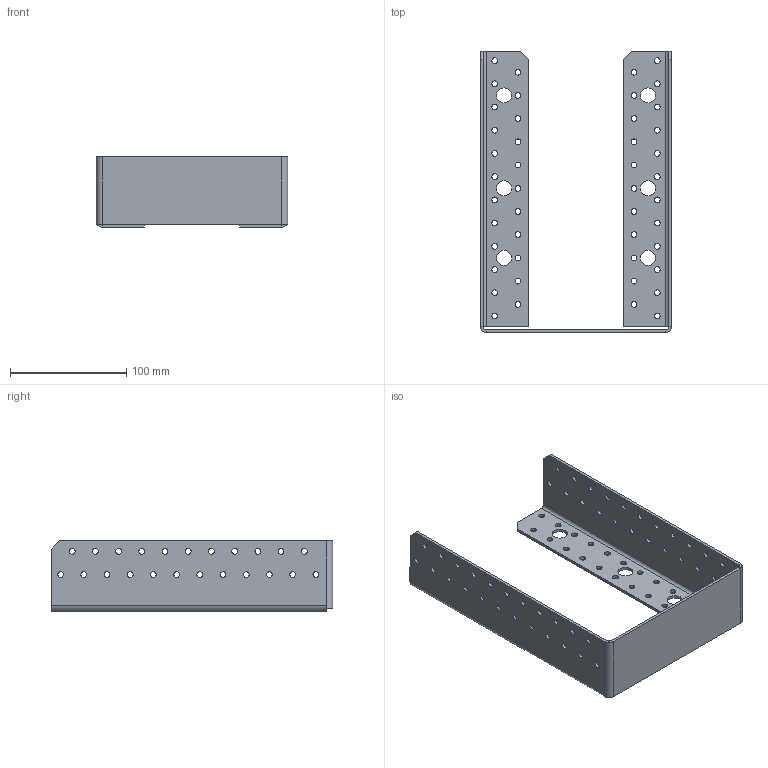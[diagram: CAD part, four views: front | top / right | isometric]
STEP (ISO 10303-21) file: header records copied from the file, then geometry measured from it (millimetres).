
FILE_DESCRIPTION (( 'STEP AP203' ), '1' );
FILE_NAME ('40518IKO.STEP', '2021-04-16T08:45:13', ( '' ), ( '' ), 'SwSTEP 2.0', 'SolidWorks 2013', '' );
FILE_SCHEMA (( 'CONFIG_CONTROL_DESIGN' ));
Length unit declared in the file: millimetre
Products named in the file (1): 40518IKO
Bounding box: 165 x 242.5 x 60.5 mm (x, y, z)
Volume: 133676.2 mm3; surface area: 115025.4 mm2
Topology: 1 solids, 1 shells, 240 faces, 684 edges, 446 vertices
Faces by surface type: cylinder 204, plane 36
Entity records: 8487 total; most frequent: DIRECTION 1576, CARTESIAN_POINT 1371, ORIENTED_EDGE 1368, EDGE_CURVE 684, AXIS2_PLACEMENT_3D 651, VERTEX_POINT 446, EDGE_LOOP 436, CIRCLE 410
